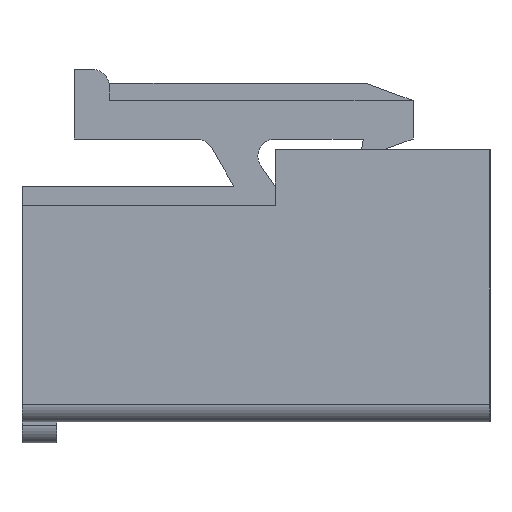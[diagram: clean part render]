
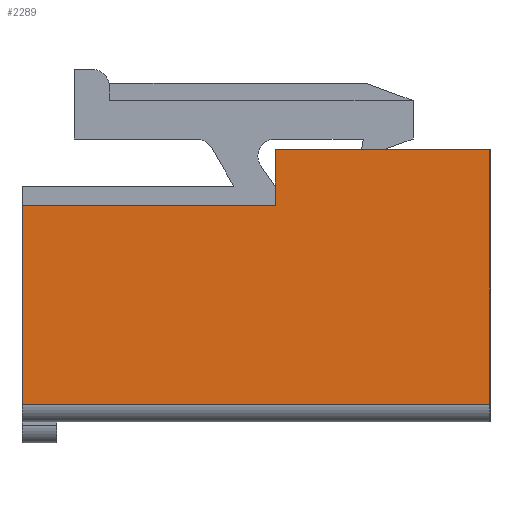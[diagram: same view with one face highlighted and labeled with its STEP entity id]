
A CAD part, left-side view. The second image highlights one B-rep face of the part: STEP entity #2289.
In plain terms, the highlighted planar face has unit normal (-1, 0, 0).
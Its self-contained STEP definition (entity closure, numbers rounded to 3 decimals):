
#176=FACE_OUTER_BOUND('',#301,.T.);
#301=EDGE_LOOP('',(#2047,#2048,#2049,#2050,#2051,#2052));
#335=LINE('',#3111,#630);
#489=LINE('',#3435,#784);
#504=LINE('',#3466,#799);
#506=LINE('',#3469,#801);
#555=LINE('',#3590,#850);
#595=LINE('',#3681,#890);
#630=VECTOR('',#2509,10.);
#784=VECTOR('',#2799,10.);
#799=VECTOR('',#2818,10.);
#801=VECTOR('',#2822,10.);
#850=VECTOR('',#2927,10.);
#890=VECTOR('',#3027,10.);
#922=VERTEX_POINT('',#3108);
#923=VERTEX_POINT('',#3110);
#1025=VERTEX_POINT('',#3433);
#1038=VERTEX_POINT('',#3463);
#1039=VERTEX_POINT('',#3465);
#1083=VERTEX_POINT('',#3589);
#1138=EDGE_CURVE('',#923,#922,#335,.T.);
#1299=EDGE_CURVE('',#922,#1025,#489,.T.);
#1314=EDGE_CURVE('',#1038,#1039,#504,.T.);
#1316=EDGE_CURVE('',#1039,#1025,#506,.T.);
#1377=EDGE_CURVE('',#923,#1083,#555,.T.);
#1423=EDGE_CURVE('',#1083,#1038,#595,.T.);
#2047=ORIENTED_EDGE('',*,*,#1377,.F.);
#2048=ORIENTED_EDGE('',*,*,#1138,.T.);
#2049=ORIENTED_EDGE('',*,*,#1299,.T.);
#2050=ORIENTED_EDGE('',*,*,#1316,.F.);
#2051=ORIENTED_EDGE('',*,*,#1314,.F.);
#2052=ORIENTED_EDGE('',*,*,#1423,.F.);
#2173=PLANE('',#2453);
#2289=ADVANCED_FACE('',(#176),#2173,.T.);
#2453=AXIS2_PLACEMENT_3D('',#3686,#3031,#3032);
#2509=DIRECTION('',(0.,0.,1.));
#2799=DIRECTION('',(0.,1.,0.));
#2818=DIRECTION('',(0.,-1.,0.));
#2822=DIRECTION('',(0.,0.,1.));
#2927=DIRECTION('',(0.,1.,0.));
#3027=DIRECTION('',(0.,0.,1.));
#3031=DIRECTION('center_axis',(-1.,0.,0.));
#3032=DIRECTION('ref_axis',(0.,-1.,0.));
#3108=CARTESIAN_POINT('',(0.,0.,7.8));
#3110=CARTESIAN_POINT('',(0.,0.,0.5));
#3111=CARTESIAN_POINT('',(0.,0.,0.));
#3433=CARTESIAN_POINT('',(0.,6.15,7.8));
#3435=CARTESIAN_POINT('',(0.,0.,7.8));
#3463=CARTESIAN_POINT('',(0.,13.4,6.2));
#3465=CARTESIAN_POINT('',(0.,6.15,6.2));
#3466=CARTESIAN_POINT('',(0.,13.4,6.2));
#3469=CARTESIAN_POINT('',(0.,6.15,7.8));
#3589=CARTESIAN_POINT('',(0.,13.4,0.5));
#3590=CARTESIAN_POINT('',(0.,10.05,0.5));
#3681=CARTESIAN_POINT('',(0.,13.4,0.));
#3686=CARTESIAN_POINT('Origin',(0.,13.4,0.));
